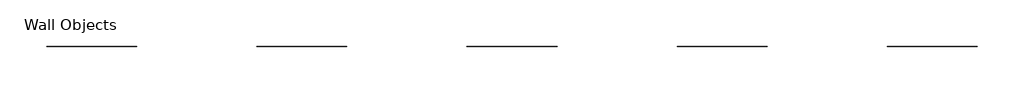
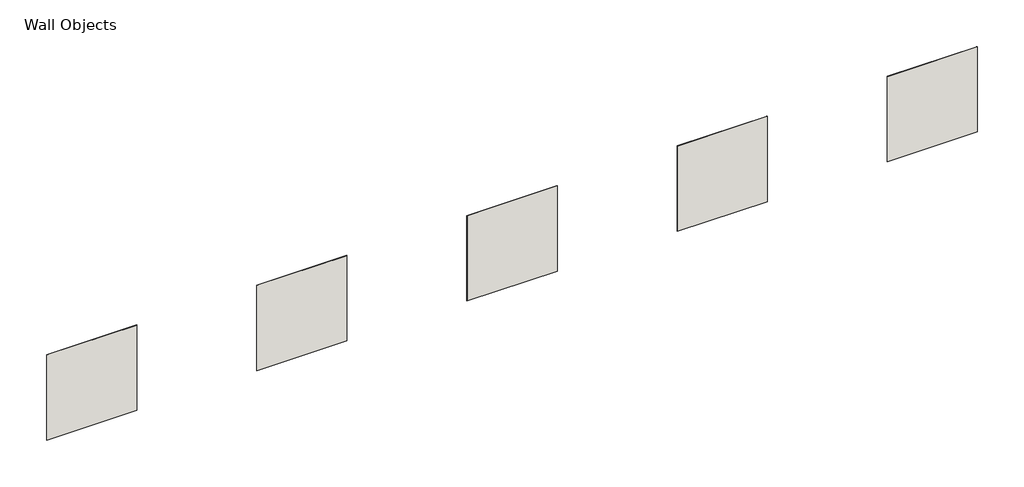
# One storey: 5 walls.
"""IFC4 building model written with IfcOpenShell, lengths in millimetres."""

from ifc_helpers import new_model, si_unit, frame, origin, place, context, project, spatial, polyline, outline, extrude, element, save

model = new_model("IFC4")

# Units and contexts
model_context = context("Model", 3, world=origin())
ifc_project = project(units=[si_unit("LENGTHUNIT", "METRE", prefix="MILLI")], contexts=[model_context])

# Site, building, storey
site = spatial("IfcSite", under=ifc_project)
building = spatial("IfcBuilding", under=site)
storey = spatial("IfcBuildingStorey", under=building, Name="Wall Objects", Elevation=4000.0)

# Walls
placement = place(None, origin())
element("IfcWall", 1, ObjectType="Knauf Danoline Tectopanel Globe 600x600x12.5_B", at=placement, inside=storey, context=model_context, shape_type="SweptSolid", body=[
    extrude(outline(polyline([(-4783.0103193, 6610.7781757), (-7783.0103193, 6610.7781757), (-7783.0103193, 6623.2781757), (-4783.0103193, 6623.2781757), (-4783.0103193, 6610.7781757)])), frame((0.0, 0.0, 4000.0), z_axis=(0.0, 0.0, 1.0), x_axis=(1.0, 0.0, 0.0)), (0.0, 0.0, 1.0), 3000.0),
])
element("IfcWall", 2, ObjectType="Knauf Danoline Tectopanel Micro 600x600x12.5_B", at=placement, inside=storey, context=model_context, shape_type="SweptSolid", body=[
    extrude(outline(polyline([(2216.9899047, 6610.7781757), (-783.0100953, 6610.7781757), (-783.0100953, 6623.2781757), (2216.9899047, 6623.2781757), (2216.9899047, 6610.7781757)])), frame((0.0, 0.0, 4000.0), z_axis=(0.0, 0.0, 1.0), x_axis=(1.0, 0.0, 0.0)), (0.0, 0.0, 1.0), 3000.0),
])
element("IfcWall", 3, ObjectType="Knauf Danoline Tectopanel Quadrill 600x600x12.5_B", at=placement, inside=storey, context=model_context, shape_type="SweptSolid", body=[
    extrude(outline(polyline([(9216.9901287, 6610.7781757), (6216.9901287, 6610.7781757), (6216.9901287, 6623.2781757), (9216.9901287, 6623.2781757), (9216.9901287, 6610.7781757)])), frame((0.0, 0.0, 4000.0), z_axis=(0.0, 0.0, 1.0), x_axis=(1.0, 0.0, 0.0)), (0.0, 0.0, 1.0), 3000.0),
])
element("IfcWall", 4, ObjectType="Knauf Danoline Tectopanel Regular 600x600x12.5_B", at=placement, inside=storey, context=model_context, shape_type="SweptSolid", body=[
    extrude(outline(polyline([(16216.9903527, 6610.7781757), (13216.9903527, 6610.7781757), (13216.9903527, 6623.2781757), (16216.9903527, 6623.2781757), (16216.9903527, 6610.7781757)])), frame((0.0, 0.0, 4000.0), z_axis=(0.0, 0.0, 1.0), x_axis=(1.0, 0.0, 0.0)), (0.0, 0.0, 1.0), 3000.0),
])
element("IfcWall", 5, ObjectType="Knauf Danoline Tectopanel Tangent 600x600x12.5_B", at=placement, inside=storey, context=model_context, shape_type="SweptSolid", body=[
    extrude(outline(polyline([(23216.9905767, 6610.7781757), (20216.9905767, 6610.7781757), (20216.9905767, 6623.2781757), (23216.9905767, 6623.2781757), (23216.9905767, 6610.7781757)])), frame((0.0, 0.0, 4000.0), z_axis=(0.0, 0.0, 1.0), x_axis=(1.0, 0.0, 0.0)), (0.0, 0.0, 1.0), 3000.0),
])

save(model, "model.ifc")
